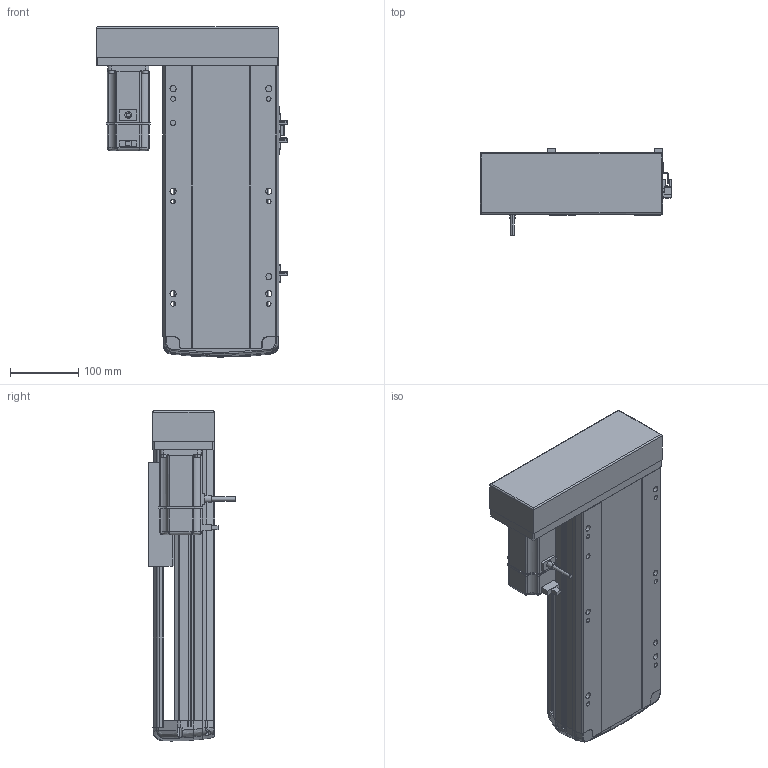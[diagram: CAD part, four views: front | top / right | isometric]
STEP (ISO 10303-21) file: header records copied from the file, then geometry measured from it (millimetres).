
FILE_DESCRIPTION (( 'STEP AP214' ), '1' );
FILE_NAME ('RTH17-XX-200-R-M40-C4.STEP', '2025-10-24T08:52:55', ( '' ), ( '' ), 'SwSTEP 2.0', 'SolidWorks 2018', '' );
FILE_SCHEMA (( 'AUTOMOTIVE_DESIGN' ));
Length unit declared in the file: millimetre
Products named in the file (10): N_RTH-BL-012 感应片(外置)^RTH17-XX-XX-R-M40-C4（方程式）; N_RTH17-E-004丝杆螺母连接座^RTH17-XX-XX-R-M40-C4（方程式）; N_RTH17-L-018盖子^RTH17-XX-XX-R-M40-C4（方程式）; N_M40^RTH17-XX-XX-R-M40-C4（方程式）; N_RTH17-M-011底座^RTH17-XX-XX-R-M40-C4（方程式）; N_RTH17-L-008-P40电机安装板左转折^RTH17-XX-XX-R-M40-C4（方程式）; RTH17-XX-200-R-M40-C4; N_RTH17-GY-001P^RTH17-XX-XX-R-M40-C4（方程式）; N_OMRON EE-SX672 換覜ん^RTH17-XX-XX-R-M40-C4ㄗ源最宒ㄘ; N_RTH17-M-007上盖^RTH17-XX-XX-R-M40-C4（方程式）
Assembly tree (11 placements, depth 2):
  RTH17-XX-200-R-M40-C4
    N_RTH17-M-011底座^RTH17-XX-XX-R-M40-C4（方程式）
    N_RTH17-M-007上盖^RTH17-XX-XX-R-M40-C4（方程式）
    N_M40^RTH17-XX-XX-R-M40-C4（方程式）
    N_OMRON EE-SX672 換覜ん^RTH17-XX-XX-R-M40-C4ㄗ源最宒ㄘ  x3
    N_RTH-BL-012 感应片(外置)^RTH17-XX-XX-R-M40-C4（方程式）
    N_RTH17-L-008-P40电机安装板左转折^RTH17-XX-XX-R-M40-C4（方程式）
    N_RTH17-L-018盖子^RTH17-XX-XX-R-M40-C4（方程式）
    N_RTH17-E-004丝杆螺母连接座^RTH17-XX-XX-R-M40-C4（方程式）
    N_RTH17-GY-001P^RTH17-XX-XX-R-M40-C4（方程式）
Bounding box: 280.5 x 127 x 483.07 mm (x, y, z)
Volume: 5321079.7 mm3; surface area: 698462.2 mm2
Topology: 13 solids, 15 shells, 1615 faces, 4467 edges, 2910 vertices
Faces by surface type: plane 829, cylinder 419, bspline 330, cone 28, torus 9
Entity records: 46390 total; most frequent: CARTESIAN_POINT 18873, ORIENTED_EDGE 5958, DIRECTION 4909, EDGE_CURVE 2983, VERTEX_POINT 1946, LINE 1711, VECTOR 1711, AXIS2_PLACEMENT_3D 1599
